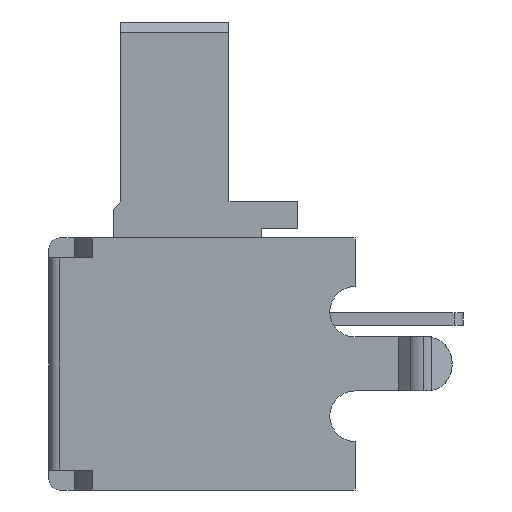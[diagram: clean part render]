
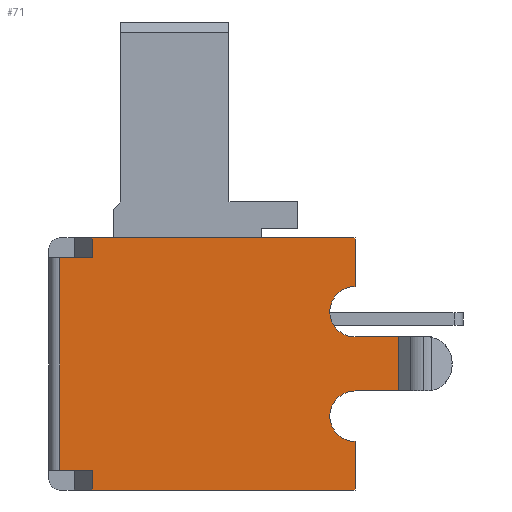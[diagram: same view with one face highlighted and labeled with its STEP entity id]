
A CAD part, left-side view. The second image highlights one B-rep face of the part: STEP entity #71.
In plain terms, the highlighted planar face has unit normal (-1, 0, 0).
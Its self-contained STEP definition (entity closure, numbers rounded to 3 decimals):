
#71 = ADVANCED_FACE ( 'NONE', ( #5745 ), #280, .T. ) ;
#91 = VERTEX_POINT ( 'NONE', #384 ) ;
#95 = VERTEX_POINT ( 'NONE', #388 ) ;
#97 = VERTEX_POINT ( 'NONE', #390 ) ;
#98 = VERTEX_POINT ( 'NONE', #391 ) ;
#99 = VERTEX_POINT ( 'NONE', #392 ) ;
#202 = VERTEX_POINT ( 'NONE', #399 ) ;
#203 = VERTEX_POINT ( 'NONE', #400 ) ;
#280 = PLANE ( 'NONE',  #498 ) ;
#288 = CARTESIAN_POINT ( 'NONE',  ( -9.25, 8., -3.5 ) ) ;
#289 = DIRECTION ( 'NONE',  ( -1., 0., 0. ) ) ;
#290 = DIRECTION ( 'NONE',  ( 0., 0., 1. ) ) ;
#384 = CARTESIAN_POINT ( 'NONE',  ( -9.25, 0., -0.75 ) ) ;
#388 = CARTESIAN_POINT ( 'NONE',  ( -9.25, 0., -2.15 ) ) ;
#390 = CARTESIAN_POINT ( 'NONE',  ( -9.25, 0., -3.5 ) ) ;
#391 = CARTESIAN_POINT ( 'NONE',  ( -9.25, 0., 2.15 ) ) ;
#392 = CARTESIAN_POINT ( 'NONE',  ( -9.25, 0., 3.5 ) ) ;
#399 = CARTESIAN_POINT ( 'NONE',  ( -9.25, -1.2, -0.75 ) ) ;
#400 = CARTESIAN_POINT ( 'NONE',  ( -9.25, -1.2, 0.75 ) ) ;
#498 = AXIS2_PLACEMENT_3D ( 'NONE', #288, #289, #290 ) ;
#1742 = AXIS2_PLACEMENT_3D ( 'NONE', #3942, #3943, #3944 ) ;
#1744 = AXIS2_PLACEMENT_3D ( 'NONE', #3965, #3966, #3967 ) ;
#1916 = EDGE_CURVE ( 'NONE', #202, #203, #6294, .T. ) ;
#1922 = VERTEX_POINT ( 'NONE', #6879 ) ;
#1925 = VERTEX_POINT ( 'NONE', #6881 ) ;
#1929 = VERTEX_POINT ( 'NONE', #6883 ) ;
#1931 = VERTEX_POINT ( 'NONE', #6885 ) ;
#1969 = VERTEX_POINT ( 'NONE', #6923 ) ;
#1970 = VERTEX_POINT ( 'NONE', #6924 ) ;
#3095 = LINE ( 'NONE', #4315, #3098 ) ;
#3098 = VECTOR ( 'NONE', #4316, 1000. ) ;
#3101 = LINE ( 'NONE', #4321, #3104 ) ;
#3104 = VECTOR ( 'NONE', #4322, 1000. ) ;
#3169 = LINE ( 'NONE', #3744, #3248 ) ;
#3240 = LINE ( 'NONE', #3734, #3242 ) ;
#3241 = LINE ( 'NONE', #3748, #3244 ) ;
#3242 = VECTOR ( 'NONE', #3735, 1000. ) ;
#3243 = LINE ( 'NONE', #3750, #3246 ) ;
#3244 = VECTOR ( 'NONE', #3749, 1000. ) ;
#3246 = VECTOR ( 'NONE', #3752, 1000. ) ;
#3247 = LINE ( 'NONE', #3754, #3250 ) ;
#3248 = VECTOR ( 'NONE', #3753, 1000. ) ;
#3250 = VECTOR ( 'NONE', #3755, 1000. ) ;
#3299 = LINE ( 'NONE', #3814, #3302 ) ;
#3302 = VECTOR ( 'NONE', #3815, 1000. ) ;
#3455 = EDGE_LOOP ( 'NONE', ( #4964, #4963, #4962, #4684, #4683, #4943, #4786, #4785, #4784, #4916, #4955, #4954, #4953, #4911 ) ) ;
#3734 = CARTESIAN_POINT ( 'NONE',  ( -9.25, 8., 3.5 ) ) ;
#3735 = DIRECTION ( 'NONE',  ( 0., -1., 0. ) ) ;
#3744 = CARTESIAN_POINT ( 'NONE',  ( -9.25, 8.5, -2.95 ) ) ;
#3748 = CARTESIAN_POINT ( 'NONE',  ( -9.25, 8., 2.95 ) ) ;
#3749 = DIRECTION ( 'NONE',  ( 0., 1., 0. ) ) ;
#3750 = CARTESIAN_POINT ( 'NONE',  ( -9.25, 8.2, 3.5 ) ) ;
#3752 = DIRECTION ( 'NONE',  ( 0., 0., 1. ) ) ;
#3753 = DIRECTION ( 'NONE',  ( 0., -1., 0. ) ) ;
#3754 = CARTESIAN_POINT ( 'NONE',  ( -9.25, 8., -3.5 ) ) ;
#3755 = DIRECTION ( 'NONE',  ( 0., 1., 0. ) ) ;
#3814 = CARTESIAN_POINT ( 'NONE',  ( -9.25, 8., 0.75 ) ) ;
#3815 = DIRECTION ( 'NONE',  ( 0., 1., 0. ) ) ;
#3895 = CARTESIAN_POINT ( 'NONE',  ( -9.25, 0., 0.75 ) ) ;
#3942 = CARTESIAN_POINT ( 'NONE',  ( -9.25, 0., 1.45 ) ) ;
#3943 = DIRECTION ( 'NONE',  ( 1., 0., 0. ) ) ;
#3944 = DIRECTION ( 'NONE',  ( 0., 0., 1. ) ) ;
#3947 = CARTESIAN_POINT ( 'NONE',  ( -9.25, 0., -3.5 ) ) ;
#3951 = CARTESIAN_POINT ( 'NONE',  ( -9.25, 0., -3.5 ) ) ;
#3952 = DIRECTION ( 'NONE',  ( 0., 0., 1. ) ) ;
#3957 = DIRECTION ( 'NONE',  ( 0., 0., 1. ) ) ;
#3965 = CARTESIAN_POINT ( 'NONE',  ( -9.25, 0., -1.45 ) ) ;
#3966 = DIRECTION ( 'NONE',  ( 1., 0., 0. ) ) ;
#3967 = DIRECTION ( 'NONE',  ( 0., 0., 1. ) ) ;
#3975 = CARTESIAN_POINT ( 'NONE',  ( -9.25, 8., -0.75 ) ) ;
#3976 = DIRECTION ( 'NONE',  ( 0., -1., 0. ) ) ;
#4315 = CARTESIAN_POINT ( 'NONE',  ( -9.25, 7.3, -3.5 ) ) ;
#4316 = DIRECTION ( 'NONE',  ( 0., 0., -1. ) ) ;
#4321 = CARTESIAN_POINT ( 'NONE',  ( -9.25, 7.3, -3.5 ) ) ;
#4322 = DIRECTION ( 'NONE',  ( 0., 0., -1. ) ) ;
#4683 = ORIENTED_EDGE ( 'NONE', *, *, #5606, .F. ) ;
#4684 = ORIENTED_EDGE ( 'NONE', *, *, #5357, .T. ) ;
#4784 = ORIENTED_EDGE ( 'NONE', *, *, #5609, .T. ) ;
#4785 = ORIENTED_EDGE ( 'NONE', *, *, #5608, .F. ) ;
#4786 = ORIENTED_EDGE ( 'NONE', *, *, #5607, .T. ) ;
#4911 = ORIENTED_EDGE ( 'NONE', *, *, #5368, .T. ) ;
#4916 = ORIENTED_EDGE ( 'NONE', *, *, #5529, .T. ) ;
#4943 = ORIENTED_EDGE ( 'NONE', *, *, #5532, .T. ) ;
#4953 = ORIENTED_EDGE ( 'NONE', *, *, #5364, .T. ) ;
#4954 = ORIENTED_EDGE ( 'NONE', *, *, #5360, .T. ) ;
#4955 = ORIENTED_EDGE ( 'NONE', *, *, #5610, .F. ) ;
#4962 = ORIENTED_EDGE ( 'NONE', *, *, #5353, .T. ) ;
#4963 = ORIENTED_EDGE ( 'NONE', *, *, #5638, .T. ) ;
#4964 = ORIENTED_EDGE ( 'NONE', *, *, #1916, .T. ) ;
#5353 = EDGE_CURVE ( 'NONE', #7039, #98, #6312, .T. ) ;
#5357 = EDGE_CURVE ( 'NONE', #98, #99, #6304, .T. ) ;
#5360 = EDGE_CURVE ( 'NONE', #97, #95, #6313, .T. ) ;
#5364 = EDGE_CURVE ( 'NONE', #95, #91, #6320, .T. ) ;
#5368 = EDGE_CURVE ( 'NONE', #91, #202, #6330, .T. ) ;
#5529 = EDGE_CURVE ( 'NONE', #1922, #1925, #3095, .T. ) ;
#5532 = EDGE_CURVE ( 'NONE', #1931, #1929, #3101, .T. ) ;
#5606 = EDGE_CURVE ( 'NONE', #1931, #99, #3240, .T. ) ;
#5607 = EDGE_CURVE ( 'NONE', #1929, #1970, #3241, .T. ) ;
#5608 = EDGE_CURVE ( 'NONE', #1969, #1970, #3243, .T. ) ;
#5609 = EDGE_CURVE ( 'NONE', #1969, #1922, #3169, .T. ) ;
#5610 = EDGE_CURVE ( 'NONE', #97, #1925, #3247, .T. ) ;
#5638 = EDGE_CURVE ( 'NONE', #203, #7039, #3299, .T. ) ;
#5745 = FACE_OUTER_BOUND ( 'NONE', #3455, .T. ) ;
#6294 = LINE ( 'NONE', #6861, #6299 ) ;
#6299 = VECTOR ( 'NONE', #6864, 1000. ) ;
#6304 = LINE ( 'NONE', #3951, #6309 ) ;
#6309 = VECTOR ( 'NONE', #3952, 1000. ) ;
#6312 = CIRCLE ( 'NONE', #1742, 0.7 ) ;
#6313 = LINE ( 'NONE', #3947, #6319 ) ;
#6319 = VECTOR ( 'NONE', #3957, 1000. ) ;
#6320 = CIRCLE ( 'NONE', #1744, 0.7 ) ;
#6330 = LINE ( 'NONE', #3975, #6333 ) ;
#6333 = VECTOR ( 'NONE', #3976, 1000. ) ;
#6861 = CARTESIAN_POINT ( 'NONE',  ( -9.25, -1.2, -3.5 ) ) ;
#6864 = DIRECTION ( 'NONE',  ( 0., 0., 1. ) ) ;
#6879 = CARTESIAN_POINT ( 'NONE',  ( -9.25, 7.3, -2.95 ) ) ;
#6881 = CARTESIAN_POINT ( 'NONE',  ( -9.25, 7.3, -3.5 ) ) ;
#6883 = CARTESIAN_POINT ( 'NONE',  ( -9.25, 7.3, 2.95 ) ) ;
#6885 = CARTESIAN_POINT ( 'NONE',  ( -9.25, 7.3, 3.5 ) ) ;
#6923 = CARTESIAN_POINT ( 'NONE',  ( -9.25, 8.2, -2.95 ) ) ;
#6924 = CARTESIAN_POINT ( 'NONE',  ( -9.25, 8.2, 2.95 ) ) ;
#7039 = VERTEX_POINT ( 'NONE', #3895 ) ;
